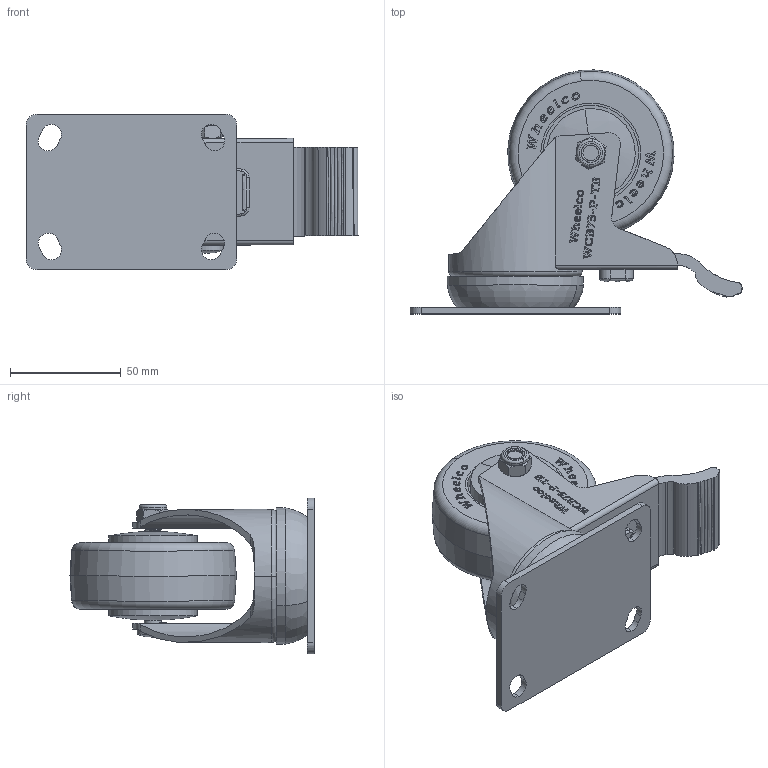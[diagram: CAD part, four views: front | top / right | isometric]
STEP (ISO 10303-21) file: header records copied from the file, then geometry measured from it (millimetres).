
FILE_DESCRIPTION (( 'STEP AP214' ), '1' );
FILE_NAME ('WCB75-P-TB.step', '2024-01-12T00:41:26', ( '' ), ( '' ), 'SwSTEP 2.0', 'SolidWorks 2022', '' );
FILE_SCHEMA (( 'AUTOMOTIVE_DESIGN' ));
Length unit declared in the file: millimetre
Products named in the file (9): WCB75-P-TB; M8Nyloc; break step; WC-M8x55; WCB75; 95X70 WC ; WCR75-P-TB; BREAK; 61.5 TOP CAP
Assembly tree (8 placements, depth 2):
  WCB75-P-TB
    WCB75
    WC-M8x55
    M8Nyloc
    61.5 TOP CAP
    WCR75-P-TB
    break step
    BREAK
    95X70 WC 
Bounding box: 149.58 x 109.96 x 70 mm (x, y, z)
Volume: 239115.8 mm3; surface area: 77300.6 mm2
Topology: 8 solids, 8 shells, 1070 faces, 2901 edges, 1921 vertices
Faces by surface type: plane 578, bspline 335, cylinder 118, cone 18, torus 16, sphere 5
Entity records: 54509 total; most frequent: CARTESIAN_POINT 28920, ORIENTED_EDGE 5796, DIRECTION 3834, EDGE_CURVE 2898, VERTEX_POINT 1919, VECTOR 1890, LINE 1890, EDGE_LOOP 1165
